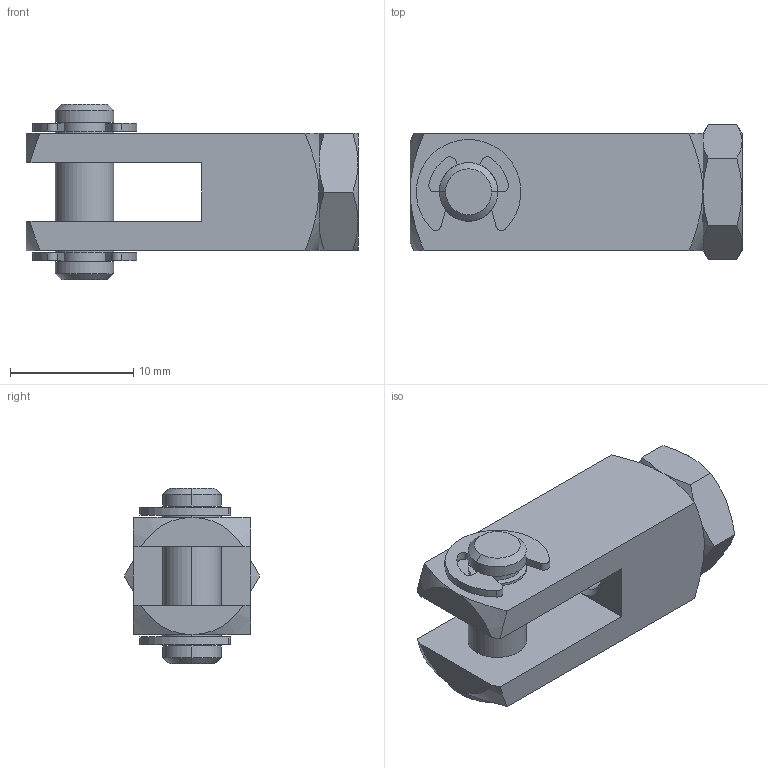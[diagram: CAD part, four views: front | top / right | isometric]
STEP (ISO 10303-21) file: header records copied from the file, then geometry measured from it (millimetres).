
FILE_DESCRIPTION((''),'2;1');
FILE_NAME('M127002_ASM','2019-01-23T16:53:11',('MeFernandez'),('ASCO Numatics'),'CREO PARAMETRIC BY PTC INC, 2018190','CREO PARAMETRIC BY PTC INC, 2018190','');
FILE_SCHEMA(('AUTOMOTIVE_DESIGN { 1 0 10303 214 1 1 1 1 }'));
Length unit declared in the file: inch
Products named in the file (3): M127002_CLEVIS-PIN; M190011; M127002_ASM
Assembly tree (2 placements, depth 2):
  M127002_ASM
    M127002_CLEVIS-PIN
    M190011
Bounding box: 26.99 x 11 x 14.27 mm (x, y, z)
Volume: 1767.2 mm3; surface area: 1956.8 mm2
Topology: 3 solids, 3 shells, 115 faces, 294 edges, 178 vertices
Faces by surface type: plane 47, cylinder 36, cone 32
Entity records: 4793 total; most frequent: CARTESIAN_POINT 883, DIRECTION 614, ORIENTED_EDGE 588, PRESENTATION_STYLE_ASSIGNMENT 297, STYLED_ITEM 297, CURVE_STYLE 294, EDGE_CURVE 294, AXIS2_PLACEMENT_3D 244
